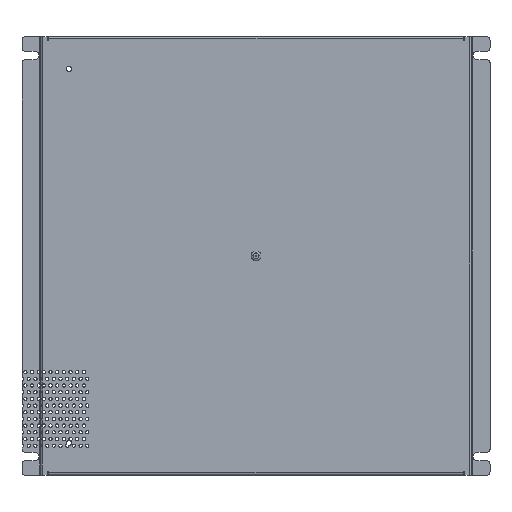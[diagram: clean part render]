
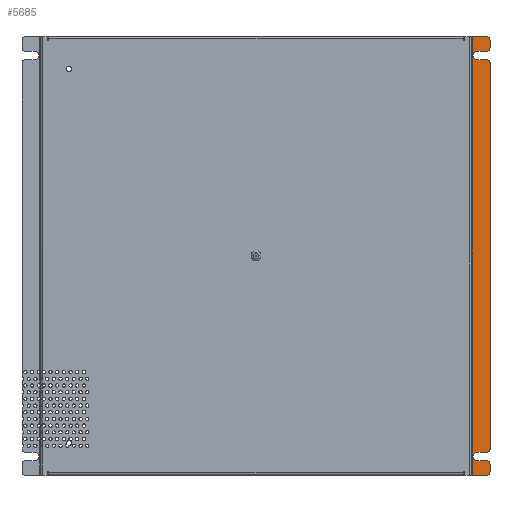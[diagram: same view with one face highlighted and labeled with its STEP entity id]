
A CAD part, top view. The second image highlights one B-rep face of the part: STEP entity #5685.
In plain terms, the highlighted planar face has unit normal (0, 0, 1).
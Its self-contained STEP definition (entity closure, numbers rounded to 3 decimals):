
#158=PLANE('',#6142);
#201=CIRCLE('',#5882,3.175);
#203=CIRCLE('',#5886,3.175);
#205=CIRCLE('',#5890,3.175);
#207=CIRCLE('',#5894,3.175);
#209=CIRCLE('',#5898,3.175);
#211=CIRCLE('',#5902,3.175);
#213=CIRCLE('',#5906,3.175);
#215=CIRCLE('',#5911,3.175);
#347=CIRCLE('',#6128,3.175);
#354=CIRCLE('',#6141,3.175);
#1072=ORIENTED_EDGE('',*,*,#2175,.T.);
#1073=ORIENTED_EDGE('',*,*,#2171,.T.);
#1074=ORIENTED_EDGE('',*,*,#2167,.F.);
#1075=ORIENTED_EDGE('',*,*,#2495,.T.);
#1076=ORIENTED_EDGE('',*,*,#2497,.F.);
#1077=ORIENTED_EDGE('',*,*,#2481,.T.);
#1078=ORIENTED_EDGE('',*,*,#2498,.T.);
#1079=ORIENTED_EDGE('',*,*,#2475,.T.);
#1080=ORIENTED_EDGE('',*,*,#2165,.F.);
#1081=ORIENTED_EDGE('',*,*,#2161,.T.);
#1082=ORIENTED_EDGE('',*,*,#2158,.T.);
#1083=ORIENTED_EDGE('',*,*,#2155,.T.);
#1084=ORIENTED_EDGE('',*,*,#2152,.T.);
#1085=ORIENTED_EDGE('',*,*,#2149,.T.);
#1086=ORIENTED_EDGE('',*,*,#2146,.T.);
#1087=ORIENTED_EDGE('',*,*,#2143,.T.);
#1088=ORIENTED_EDGE('',*,*,#2141,.F.);
#1089=ORIENTED_EDGE('',*,*,#2137,.T.);
#1090=ORIENTED_EDGE('',*,*,#2135,.T.);
#1091=ORIENTED_EDGE('',*,*,#2131,.T.);
#1092=ORIENTED_EDGE('',*,*,#2129,.T.);
#1093=ORIENTED_EDGE('',*,*,#2124,.T.);
#2124=EDGE_CURVE('',#2893,#2894,#201,.T.);
#2129=EDGE_CURVE('',#2898,#2893,#3449,.T.);
#2131=EDGE_CURVE('',#2899,#2898,#203,.T.);
#2135=EDGE_CURVE('',#2902,#2899,#3453,.T.);
#2137=EDGE_CURVE('',#2903,#2902,#205,.F.);
#2141=EDGE_CURVE('',#2903,#2906,#3457,.F.);
#2143=EDGE_CURVE('',#2907,#2906,#207,.F.);
#2146=EDGE_CURVE('',#2909,#2907,#3460,.F.);
#2149=EDGE_CURVE('',#2911,#2909,#209,.T.);
#2152=EDGE_CURVE('',#2913,#2911,#3464,.T.);
#2155=EDGE_CURVE('',#2915,#2913,#211,.T.);
#2158=EDGE_CURVE('',#2917,#2915,#3468,.T.);
#2161=EDGE_CURVE('',#2919,#2917,#213,.F.);
#2165=EDGE_CURVE('',#2919,#2922,#3473,.F.);
#2167=EDGE_CURVE('',#2923,#2924,#3475,.F.);
#2171=EDGE_CURVE('',#2927,#2924,#215,.F.);
#2175=EDGE_CURVE('',#2894,#2927,#3481,.F.);
#2475=EDGE_CURVE('',#3159,#2922,#347,.F.);
#2481=EDGE_CURVE('',#3161,#3164,#3605,.T.);
#2495=EDGE_CURVE('',#2923,#3174,#354,.F.);
#2497=EDGE_CURVE('',#3161,#3174,#3617,.F.);
#2498=EDGE_CURVE('',#3164,#3159,#3618,.F.);
#2893=VERTEX_POINT('',#8189);
#2894=VERTEX_POINT('',#8190);
#2898=VERTEX_POINT('',#8200);
#2899=VERTEX_POINT('',#8204);
#2902=VERTEX_POINT('',#8212);
#2903=VERTEX_POINT('',#8216);
#2906=VERTEX_POINT('',#8224);
#2907=VERTEX_POINT('',#8228);
#2909=VERTEX_POINT('',#8234);
#2911=VERTEX_POINT('',#8240);
#2913=VERTEX_POINT('',#8246);
#2915=VERTEX_POINT('',#8252);
#2917=VERTEX_POINT('',#8258);
#2919=VERTEX_POINT('',#8264);
#2922=VERTEX_POINT('',#8272);
#2923=VERTEX_POINT('',#8276);
#2924=VERTEX_POINT('',#8277);
#2927=VERTEX_POINT('',#8285);
#3159=VERTEX_POINT('',#11096);
#3161=VERTEX_POINT('',#11102);
#3164=VERTEX_POINT('',#11107);
#3174=VERTEX_POINT('',#11137);
#3449=LINE('',#8199,#3791);
#3453=LINE('',#8211,#3795);
#3457=LINE('',#8223,#3799);
#3460=LINE('',#8233,#3802);
#3464=LINE('',#8245,#3806);
#3468=LINE('',#8257,#3810);
#3473=LINE('',#8271,#3815);
#3475=LINE('',#8275,#3817);
#3481=LINE('',#8291,#3823);
#3605=LINE('',#11108,#3947);
#3617=LINE('',#11140,#3959);
#3618=LINE('',#11141,#3960);
#3791=VECTOR('',#6553,1000.);
#3795=VECTOR('',#6565,1000.);
#3799=VECTOR('',#6577,1000.);
#3802=VECTOR('',#6588,1000.);
#3806=VECTOR('',#6600,1000.);
#3810=VECTOR('',#6612,1000.);
#3815=VECTOR('',#6625,1000.);
#3817=VECTOR('',#6629,1000.);
#3823=VECTOR('',#6643,1000.);
#3947=VECTOR('',#7205,1000.);
#3959=VECTOR('',#7237,1000.);
#3960=VECTOR('',#7238,1000.);
#4287=EDGE_LOOP('',(#1072,#1073,#1074,#1075,#1076,#1077,#1078,#1079,#1080,
#1081,#1082,#1083,#1084,#1085,#1086,#1087,#1088,#1089,#1090,#1091,#1092,
#1093));
#4907=FACE_BOUND('',#4287,.T.);
#5685=ADVANCED_FACE('',(#4907),#158,.F.);
#5882=AXIS2_PLACEMENT_3D('',#8188,#6544,#6545);
#5886=AXIS2_PLACEMENT_3D('',#8203,#6557,#6558);
#5890=AXIS2_PLACEMENT_3D('',#8215,#6569,#6570);
#5894=AXIS2_PLACEMENT_3D('',#8227,#6581,#6582);
#5898=AXIS2_PLACEMENT_3D('',#8239,#6593,#6594);
#5902=AXIS2_PLACEMENT_3D('',#8251,#6605,#6606);
#5906=AXIS2_PLACEMENT_3D('',#8263,#6617,#6618);
#5911=AXIS2_PLACEMENT_3D('',#8284,#6635,#6636);
#6128=AXIS2_PLACEMENT_3D('',#11095,#7193,#7194);
#6141=AXIS2_PLACEMENT_3D('',#11136,#7232,#7233);
#6142=AXIS2_PLACEMENT_3D('',#11139,#7235,#7236);
#6544=DIRECTION('',(0.,0.,-1.));
#6545=DIRECTION('',(-1.,0.,0.));
#6553=DIRECTION('',(0.,1.,0.));
#6557=DIRECTION('',(0.,0.,-1.));
#6558=DIRECTION('',(-1.,0.,0.));
#6565=DIRECTION('',(-1.,0.,0.));
#6569=DIRECTION('',(0.,0.,-1.));
#6570=DIRECTION('',(-1.,0.,0.));
#6577=DIRECTION('',(0.,1.,0.));
#6581=DIRECTION('',(0.,0.,-1.));
#6582=DIRECTION('',(-1.,0.,0.));
#6588=DIRECTION('',(-1.,0.,0.));
#6593=DIRECTION('',(0.,0.,-1.));
#6594=DIRECTION('',(-1.,0.,0.));
#6600=DIRECTION('',(0.,1.,0.));
#6605=DIRECTION('',(0.,0.,-1.));
#6606=DIRECTION('',(-1.,0.,0.));
#6612=DIRECTION('',(-1.,0.,0.));
#6617=DIRECTION('',(0.,0.,-1.));
#6618=DIRECTION('',(-1.,0.,0.));
#6625=DIRECTION('',(0.,1.,0.));
#6629=DIRECTION('',(0.,1.,0.));
#6635=DIRECTION('',(0.,0.,-1.));
#6636=DIRECTION('',(-1.,0.,0.));
#6643=DIRECTION('',(-1.,0.,0.));
#7193=DIRECTION('',(0.,0.,-1.));
#7194=DIRECTION('',(-1.,0.,0.));
#7205=DIRECTION('',(0.,-1.,0.));
#7232=DIRECTION('',(0.,0.,-1.));
#7233=DIRECTION('',(-1.,0.,0.));
#7235=DIRECTION('',(0.,0.,-1.));
#7236=DIRECTION('',(-1.,0.,0.));
#7237=DIRECTION('',(-1.,0.,0.));
#7238=DIRECTION('',(-1.,0.,0.));
#8188=CARTESIAN_POINT('',(209.677,191.287,-8.28));
#8189=CARTESIAN_POINT('',(206.502,191.287,-8.28));
#8190=CARTESIAN_POINT('',(209.677,194.462,-8.28));
#8199=CARTESIAN_POINT('',(206.502,208.28,-8.28));
#8200=CARTESIAN_POINT('',(206.502,189.687,-8.28));
#8203=CARTESIAN_POINT('',(209.677,189.687,-8.28));
#8204=CARTESIAN_POINT('',(209.677,186.512,-8.28));
#8211=CARTESIAN_POINT('',(203.2,186.512,-8.28));
#8212=CARTESIAN_POINT('',(219.075,186.512,-8.28));
#8215=CARTESIAN_POINT('',(219.075,183.337,-8.28));
#8216=CARTESIAN_POINT('',(222.25,183.337,-8.28));
#8223=CARTESIAN_POINT('',(222.25,208.28,-8.28));
#8224=CARTESIAN_POINT('',(222.25,-183.337,-8.28));
#8227=CARTESIAN_POINT('',(219.075,-183.337,-8.28));
#8228=CARTESIAN_POINT('',(219.075,-186.512,-8.28));
#8233=CARTESIAN_POINT('',(203.2,-186.512,-8.28));
#8234=CARTESIAN_POINT('',(209.677,-186.512,-8.28));
#8239=CARTESIAN_POINT('',(209.677,-189.687,-8.28));
#8240=CARTESIAN_POINT('',(206.502,-189.687,-8.28));
#8245=CARTESIAN_POINT('',(206.502,208.28,-8.28));
#8246=CARTESIAN_POINT('',(206.502,-191.287,-8.28));
#8251=CARTESIAN_POINT('',(209.677,-191.287,-8.28));
#8252=CARTESIAN_POINT('',(209.677,-194.462,-8.28));
#8257=CARTESIAN_POINT('',(203.2,-194.462,-8.28));
#8258=CARTESIAN_POINT('',(219.075,-194.462,-8.28));
#8263=CARTESIAN_POINT('',(219.075,-197.637,-8.28));
#8264=CARTESIAN_POINT('',(222.25,-197.637,-8.28));
#8271=CARTESIAN_POINT('',(222.25,208.28,-8.28));
#8272=CARTESIAN_POINT('',(222.25,-205.105,-8.28));
#8275=CARTESIAN_POINT('',(222.25,208.28,-8.28));
#8276=CARTESIAN_POINT('',(222.25,205.105,-8.28));
#8277=CARTESIAN_POINT('',(222.25,197.637,-8.28));
#8284=CARTESIAN_POINT('',(219.075,197.637,-8.28));
#8285=CARTESIAN_POINT('',(219.075,194.462,-8.28));
#8291=CARTESIAN_POINT('',(203.2,194.462,-8.28));
#11095=CARTESIAN_POINT('',(219.075,-205.105,-8.28));
#11096=CARTESIAN_POINT('',(219.075,-208.28,-8.28));
#11102=CARTESIAN_POINT('',(205.384,208.28,-8.28));
#11107=CARTESIAN_POINT('',(205.384,-208.28,-8.28));
#11108=CARTESIAN_POINT('',(205.384,208.28,-8.28));
#11136=CARTESIAN_POINT('',(219.075,205.105,-8.28));
#11137=CARTESIAN_POINT('',(219.075,208.28,-8.28));
#11139=CARTESIAN_POINT('',(203.2,208.28,-8.28));
#11140=CARTESIAN_POINT('',(203.2,208.28,-8.28));
#11141=CARTESIAN_POINT('',(203.2,-208.28,-8.28));
